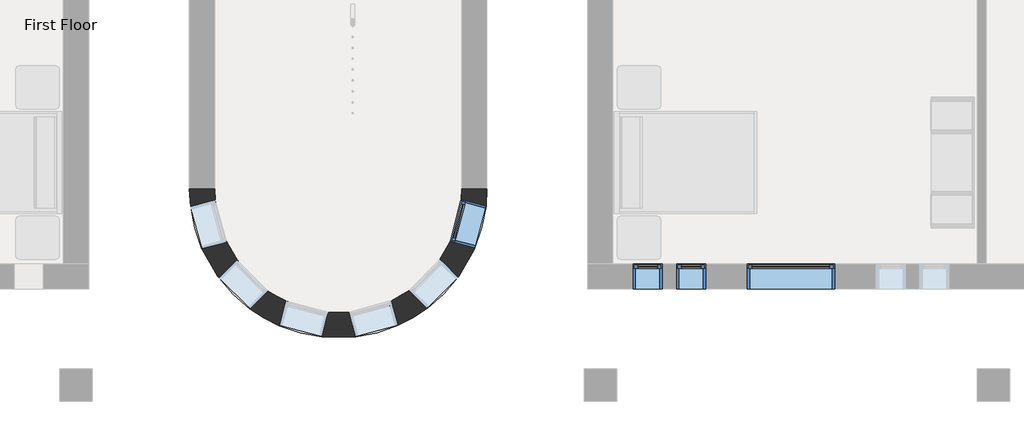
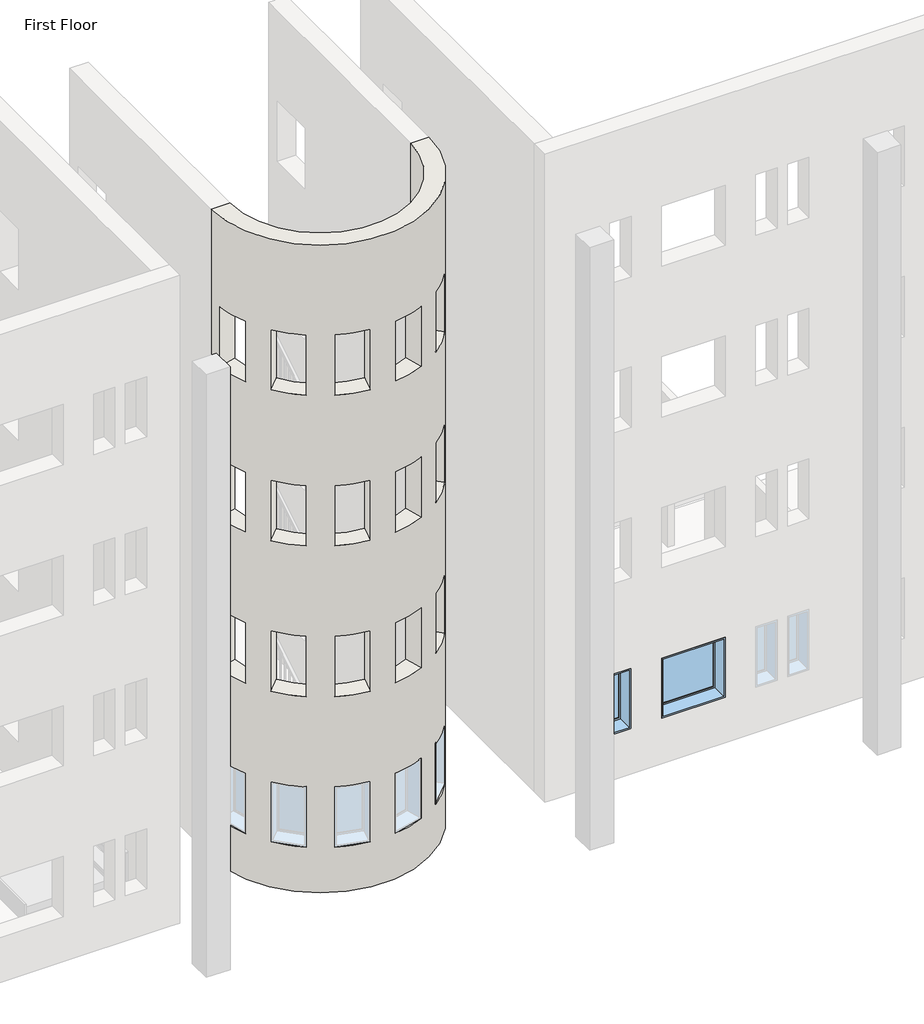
# One storey, part 2 of 21: 4 windows, 1 wall.
"""IFC4 building model written with IfcOpenShell, lengths in millimetres."""

from ifc_helpers import new_model, si_unit, frame, origin, place, context, project, spatial, polyline, circle_curve, transform, mapped, element, save
from ifc_brep_helpers import plane_surface, cylinder_surface, revolved_surface, advanced_brep
from components import window_d61ef850, window_ed80354a, window_d89bf842

model = new_model("IFC4")

# Units and contexts
model_context = context("Model", 3, world=origin())
ifc_project = project(units=[si_unit("LENGTHUNIT", "METRE", prefix="MILLI")], contexts=[model_context])

# Site, building, storey
site = spatial("IfcSite", under=ifc_project)
building = spatial("IfcBuilding", under=site)
storey = spatial("IfcBuildingStorey", under=building, Name="First Floor", Elevation=0.0)

# Wall
placement = place(None, origin())
element("IfcWall", 1, ObjectType="Exterior - Brick on Mtl. Stud", at=placement, inside=storey, context=model_context, shape_type="AdvancedBrep", body=[
    advanced_brep(
    [(-13333.3839563, -32917.9183133, 13106.4), (-16790.9589563, -32917.9183133, 13106.4), (-17143.3839563, -32917.9183133, 13106.4), (-12980.9589563, -32917.9183133, 13106.4), (-16790.9589563, -32917.9183133, 0.0), (-13333.3839563, -32917.9183133, 0.0), (-12980.9589563, -32917.9183133, 0.0), (-17143.3839563, -32917.9183133, 0.0), (-13495.1055834, -33647.9941794, 8229.6), (-13495.1055834, -33647.9941794, 7010.4), (-13339.1246787, -33058.6877079, 7010.4), (-13339.1246787, -33058.6877079, 8229.6), (-14070.090534, -34333.7154965, 8229.6), (-14070.090534, -34333.7154965, 7010.4), (-13640.3538723, -33901.3515739, 7010.4), (-13640.3538723, -33901.3515739, 8229.6), (-14910.9027666, -34640.0751017, 8229.6), (-14910.9027666, -34640.0751017, 7010.4), (-14322.5579393, -34480.5052919, 7010.4), (-14322.5579393, -34480.5052919, 8229.6), (-15792.2473224, -34484.9841862, 8229.6), (-15792.2473224, -34484.9841862, 7010.4), (-15202.9408509, -34640.9650909, 7010.4), (-15202.9408509, -34640.9650909, 8229.6), (-16477.9686395, -33909.9992356, 8229.6), (-16477.9686395, -33909.9992356, 7010.4), (-16045.6047169, -34339.7358973, 7010.4), (-16045.6047169, -34339.7358973, 8229.6), (-16784.3282447, -33069.187003, 8229.6), (-16784.3282447, -33069.187003, 7010.4), (-16624.7584349, -33657.5318303, 7010.4), (-16624.7584349, -33657.5318303, 8229.6), (-13495.1055834, -33647.9941794, 5181.6), (-13495.1055834, -33647.9941794, 3962.4), (-13339.1246787, -33058.6877079, 3962.4), (-13339.1246787, -33058.6877079, 5181.6), (-14070.090534, -34333.7154965, 5181.6), (-14070.090534, -34333.7154965, 3962.4), (-13640.3538723, -33901.3515739, 3962.4), (-13640.3538723, -33901.3515739, 5181.6), (-14910.9027666, -34640.0751017, 5181.6), (-14910.9027666, -34640.0751017, 3962.4), (-14322.5579393, -34480.5052919, 3962.4), (-14322.5579393, -34480.5052919, 5181.6), (-15792.2473224, -34484.9841862, 5181.6), (-15792.2473224, -34484.9841862, 3962.4), (-15202.9408509, -34640.9650909, 3962.4), (-15202.9408509, -34640.9650909, 5181.6), (-16477.9686395, -33909.9992356, 5181.6), (-16477.9686395, -33909.9992356, 3962.4), (-16045.6047169, -34339.7358973, 3962.4), (-16045.6047169, -34339.7358973, 5181.6), (-16784.3282447, -33069.187003, 5181.6), (-16784.3282447, -33069.187003, 3962.4), (-16624.7584349, -33657.5318303, 3962.4), (-16624.7584349, -33657.5318303, 5181.6), (-13495.1055834, -33647.9941794, 11277.6), (-13495.1055834, -33647.9941794, 10058.4), (-13339.1246787, -33058.6877079, 10058.4), (-13339.1246787, -33058.6877079, 11277.6), (-14070.090534, -34333.7154965, 11277.6), (-14070.090534, -34333.7154965, 10058.4), (-13640.3538723, -33901.3515739, 10058.4), (-13640.3538723, -33901.3515739, 11277.6), (-14910.9027666, -34640.0751017, 11277.6), (-14910.9027666, -34640.0751017, 10058.4), (-14322.5579393, -34480.5052919, 10058.4), (-14322.5579393, -34480.5052919, 11277.6), (-15792.2473224, -34484.9841862, 11277.6), (-15792.2473224, -34484.9841862, 10058.4), (-15202.9408509, -34640.9650909, 10058.4), (-15202.9408509, -34640.9650909, 11277.6), (-16477.9686395, -33909.9992356, 11277.6), (-16477.9686395, -33909.9992356, 10058.4), (-16045.6047169, -34339.7358973, 10058.4), (-16045.6047169, -34339.7358973, 11277.6), (-16784.3282447, -33069.187003, 11277.6), (-16784.3282447, -33069.187003, 10058.4), (-16624.7584349, -33657.5318303, 10058.4), (-16624.7584349, -33657.5318303, 11277.6), (-13495.1055834, -33647.9941794, 2133.6), (-13495.1055834, -33647.9941794, 914.4), (-13339.1246787, -33058.6877079, 914.4), (-13339.1246787, -33058.6877079, 2133.6), (-14070.090534, -34333.7154965, 2133.6), (-14070.090534, -34333.7154965, 914.4), (-13640.3538723, -33901.3515739, 914.4), (-13640.3538723, -33901.3515739, 2133.6), (-14910.9027666, -34640.0751017, 2133.6), (-14910.9027666, -34640.0751017, 914.4), (-14322.5579393, -34480.5052919, 914.4), (-14322.5579393, -34480.5052919, 2133.6), (-15792.2473224, -34484.9841862, 2133.6), (-15792.2473224, -34484.9841862, 914.4), (-15202.9408509, -34640.9650909, 914.4), (-15202.9408509, -34640.9650909, 2133.6), (-16477.9686395, -33909.9992356, 2133.6), (-16477.9686395, -33909.9992356, 914.4), (-16045.6047169, -34339.7358973, 914.4), (-16045.6047169, -34339.7358973, 2133.6), (-16784.3282447, -33069.187003, 914.4), (-16624.7584349, -33657.5318303, 914.4), (-16624.7584349, -33657.5318303, 2133.6), (-16784.3282447, -33069.187003, 2133.6), (-13149.9261748, -33739.3581794, 7010.4), (-13149.9261748, -33739.3581794, 8229.6), (-12993.9452701, -33150.0517078, 8229.6), (-12993.9452701, -33150.0517078, 7010.4), (-13816.8383973, -34585.4287457, 7010.4), (-13816.8383973, -34585.4287457, 8229.6), (-13387.1017356, -34153.0648231, 8229.6), (-13387.1017356, -34153.0648231, 7010.4), (-14817.4366072, -34984.6912384, 7010.4), (-14817.4366072, -34984.6912384, 8229.6), (-14229.0917799, -34825.1214286, 8229.6), (-14229.0917799, -34825.1214286, 7010.4), (-15883.6113224, -34830.1635948, 7010.4), (-15883.6113224, -34830.1635948, 8229.6), (-15294.3048508, -34986.1444995, 8229.6), (-15294.3048508, -34986.1444995, 7010.4), (-16729.6818887, -34163.2513723, 7010.4), (-16729.6818887, -34163.2513723, 8229.6), (-16297.3179661, -34592.9880341, 8229.6), (-16297.3179661, -34592.9880341, 7010.4), (-17128.9443814, -33162.6531624, 7010.4), (-17128.9443814, -33162.6531624, 8229.6), (-16969.3745716, -33750.9979897, 8229.6), (-16969.3745716, -33750.9979897, 7010.4), (-13149.9261748, -33739.3581794, 3962.4), (-13149.9261748, -33739.3581794, 5181.6), (-12993.9452701, -33150.0517078, 5181.6), (-12993.9452701, -33150.0517078, 3962.4), (-13816.8383973, -34585.4287457, 3962.4), (-13816.8383973, -34585.4287457, 5181.6), (-13387.1017356, -34153.0648231, 5181.6), (-13387.1017356, -34153.0648231, 3962.4), (-14817.4366072, -34984.6912384, 3962.4), (-14817.4366072, -34984.6912384, 5181.6), (-14229.0917799, -34825.1214286, 5181.6), (-14229.0917799, -34825.1214286, 3962.4), (-15883.6113224, -34830.1635948, 3962.4), (-15883.6113224, -34830.1635948, 5181.6), (-15294.3048508, -34986.1444995, 5181.6), (-15294.3048508, -34986.1444995, 3962.4), (-16729.6818887, -34163.2513723, 3962.4), (-16729.6818887, -34163.2513723, 5181.6), (-16297.3179661, -34592.9880341, 5181.6), (-16297.3179661, -34592.9880341, 3962.4), (-17128.9443814, -33162.6531624, 3962.4), (-17128.9443814, -33162.6531624, 5181.6), (-16969.3745716, -33750.9979897, 5181.6), (-16969.3745716, -33750.9979897, 3962.4), (-13149.9261748, -33739.3581794, 10058.4), (-13149.9261748, -33739.3581794, 11277.6), (-12993.9452701, -33150.0517078, 11277.6), (-12993.9452701, -33150.0517078, 10058.4), (-13816.8383973, -34585.4287457, 10058.4), (-13816.8383973, -34585.4287457, 11277.6), (-13387.1017356, -34153.0648231, 11277.6), (-13387.1017356, -34153.0648231, 10058.4), (-14817.4366072, -34984.6912384, 10058.4), (-14817.4366072, -34984.6912384, 11277.6), (-14229.0917799, -34825.1214286, 11277.6), (-14229.0917799, -34825.1214286, 10058.4), (-15883.6113224, -34830.1635948, 10058.4), (-15883.6113224, -34830.1635948, 11277.6), (-15294.3048508, -34986.1444995, 11277.6), (-15294.3048508, -34986.1444995, 10058.4), (-16729.6818887, -34163.2513723, 10058.4), (-16729.6818887, -34163.2513723, 11277.6), (-16297.3179661, -34592.9880341, 11277.6), (-16297.3179661, -34592.9880341, 10058.4), (-17128.9443814, -33162.6531624, 10058.4), (-17128.9443814, -33162.6531624, 11277.6), (-16969.3745716, -33750.9979897, 11277.6), (-16969.3745716, -33750.9979897, 10058.4), (-13149.9261748, -33739.3581794, 914.4), (-13149.9261748, -33739.3581794, 2133.6), (-12993.9452701, -33150.0517078, 2133.6), (-12993.9452701, -33150.0517078, 914.4), (-13816.8383973, -34585.4287457, 914.4), (-13816.8383973, -34585.4287457, 2133.6), (-13387.1017356, -34153.0648231, 2133.6), (-13387.1017356, -34153.0648231, 914.4), (-14817.4366072, -34984.6912384, 914.4), (-14817.4366072, -34984.6912384, 2133.6), (-14229.0917799, -34825.1214286, 2133.6), (-14229.0917799, -34825.1214286, 914.4), (-15883.6113224, -34830.1635948, 914.4), (-15883.6113224, -34830.1635948, 2133.6), (-15294.3048508, -34986.1444995, 2133.6), (-15294.3048508, -34986.1444995, 914.4), (-16729.6818887, -34163.2513723, 914.4), (-16729.6818887, -34163.2513723, 2133.6), (-16297.3179661, -34592.9880341, 2133.6), (-16297.3179661, -34592.9880341, 914.4), (-16969.3745716, -33750.9979897, 914.4), (-17128.9443814, -33162.6531624, 914.4), (-17128.9443814, -33162.6531624, 2133.6), (-16969.3745716, -33750.9979897, 2133.6)],
    [
        (0, 1, circle_curve(frame((-15062.1714563, -32917.9183133, 13106.4), z_axis=(0.0, 0.0, -1.0), x_axis=(1.0, 0.0, 0.0)), 1728.7875)),
        (1, 2),
        (2, 3, circle_curve(frame((-15062.1714563, -32917.9183133, 13106.4), z_axis=(0.0, 0.0, 1.0), x_axis=(1.0, 0.0, 0.0)), 2081.2125)),
        (3, 0),
        (4, 5, circle_curve(frame((-15062.1714563, -32917.9183133, 0.0), z_axis=(0.0, 0.0, 1.0), x_axis=(1.0, 0.0, 0.0)), 1728.7875)),
        (5, 6),
        (6, 7, circle_curve(frame((-15062.1714563, -32917.9183133, 0.0), z_axis=(0.0, 0.0, -1.0), x_axis=(1.0, 0.0, 0.0)), 2081.2125)),
        (7, 4),
        (0, 5),
        (4, 1),
        (8, 9),
        (9, 10, circle_curve(frame((-15062.1714563, -32917.9183133, 7010.4), z_axis=(0.0, 0.0, 1.0), x_axis=(1.0, 0.0, 0.0)), 1728.7875)),
        (10, 11),
        (11, 8, circle_curve(frame((-15062.1714563, -32917.9183133, 8229.6), z_axis=(0.0, 0.0, -1.0), x_axis=(1.0, 0.0, 0.0)), 1728.7875)),
        (12, 13),
        (13, 14, circle_curve(frame((-15062.1714563, -32917.9183133, 7010.4), z_axis=(0.0, 0.0, 1.0), x_axis=(1.0, 0.0, 0.0)), 1728.7875)),
        (14, 15),
        (15, 12, circle_curve(frame((-15062.1714563, -32917.9183133, 8229.6), z_axis=(0.0, 0.0, -1.0), x_axis=(1.0, 0.0, 0.0)), 1728.7875)),
        (16, 17),
        (17, 18, circle_curve(frame((-15062.1714563, -32917.9183133, 7010.4), z_axis=(0.0, 0.0, 1.0), x_axis=(1.0, 0.0, 0.0)), 1728.7875)),
        (18, 19),
        (19, 16, circle_curve(frame((-15062.1714563, -32917.9183133, 8229.6), z_axis=(0.0, 0.0, -1.0), x_axis=(1.0, 0.0, 0.0)), 1728.7875)),
        (20, 21),
        (21, 22, circle_curve(frame((-15062.1714563, -32917.9183133, 7010.4), z_axis=(0.0, 0.0, 1.0), x_axis=(1.0, 0.0, 0.0)), 1728.7875)),
        (22, 23),
        (23, 20, circle_curve(frame((-15062.1714563, -32917.9183133, 8229.6), z_axis=(0.0, 0.0, -1.0), x_axis=(1.0, 0.0, 0.0)), 1728.7875)),
        (24, 25),
        (25, 26, circle_curve(frame((-15062.1714563, -32917.9183133, 7010.4), z_axis=(0.0, 0.0, 1.0), x_axis=(1.0, 0.0, 0.0)), 1728.7875)),
        (26, 27),
        (27, 24, circle_curve(frame((-15062.1714563, -32917.9183133, 8229.6), z_axis=(0.0, 0.0, -1.0), x_axis=(1.0, 0.0, 0.0)), 1728.7875)),
        (28, 29),
        (29, 30, circle_curve(frame((-15062.1714563, -32917.9183133, 7010.4), z_axis=(0.0, 0.0, 1.0), x_axis=(1.0, 0.0, 0.0)), 1728.7875)),
        (30, 31),
        (31, 28, circle_curve(frame((-15062.1714563, -32917.9183133, 8229.6), z_axis=(0.0, 0.0, -1.0), x_axis=(1.0, 0.0, 0.0)), 1728.7875)),
        (32, 33),
        (33, 34, circle_curve(frame((-15062.1714563, -32917.9183133, 3962.4), z_axis=(0.0, 0.0, 1.0), x_axis=(1.0, 0.0, 0.0)), 1728.7875)),
        (34, 35),
        (35, 32, circle_curve(frame((-15062.1714563, -32917.9183133, 5181.6), z_axis=(0.0, 0.0, -1.0), x_axis=(1.0, 0.0, 0.0)), 1728.7875)),
        (36, 37),
        (37, 38, circle_curve(frame((-15062.1714563, -32917.9183133, 3962.4), z_axis=(0.0, 0.0, 1.0), x_axis=(1.0, 0.0, 0.0)), 1728.7875)),
        (38, 39),
        (39, 36, circle_curve(frame((-15062.1714563, -32917.9183133, 5181.6), z_axis=(0.0, 0.0, -1.0), x_axis=(1.0, 0.0, 0.0)), 1728.7875)),
        (40, 41),
        (41, 42, circle_curve(frame((-15062.1714563, -32917.9183133, 3962.4), z_axis=(0.0, 0.0, 1.0), x_axis=(1.0, 0.0, 0.0)), 1728.7875)),
        (42, 43),
        (43, 40, circle_curve(frame((-15062.1714563, -32917.9183133, 5181.6), z_axis=(0.0, 0.0, -1.0), x_axis=(1.0, 0.0, 0.0)), 1728.7875)),
        (44, 45),
        (45, 46, circle_curve(frame((-15062.1714563, -32917.9183133, 3962.4), z_axis=(0.0, 0.0, 1.0), x_axis=(1.0, 0.0, 0.0)), 1728.7875)),
        (46, 47),
        (47, 44, circle_curve(frame((-15062.1714563, -32917.9183133, 5181.6), z_axis=(0.0, 0.0, -1.0), x_axis=(1.0, 0.0, 0.0)), 1728.7875)),
        (48, 49),
        (49, 50, circle_curve(frame((-15062.1714563, -32917.9183133, 3962.4), z_axis=(0.0, 0.0, 1.0), x_axis=(1.0, 0.0, 0.0)), 1728.7875)),
        (50, 51),
        (51, 48, circle_curve(frame((-15062.1714563, -32917.9183133, 5181.6), z_axis=(0.0, 0.0, -1.0), x_axis=(1.0, 0.0, 0.0)), 1728.7875)),
        (52, 53),
        (53, 54, circle_curve(frame((-15062.1714563, -32917.9183133, 3962.4), z_axis=(0.0, 0.0, 1.0), x_axis=(1.0, 0.0, 0.0)), 1728.7875)),
        (54, 55),
        (55, 52, circle_curve(frame((-15062.1714563, -32917.9183133, 5181.6), z_axis=(0.0, 0.0, -1.0), x_axis=(1.0, 0.0, 0.0)), 1728.7875)),
        (56, 57),
        (57, 58, circle_curve(frame((-15062.1714563, -32917.9183133, 10058.4), z_axis=(0.0, 0.0, 1.0), x_axis=(1.0, 0.0, 0.0)), 1728.7875)),
        (58, 59),
        (59, 56, circle_curve(frame((-15062.1714563, -32917.9183133, 11277.6), z_axis=(0.0, 0.0, -1.0), x_axis=(1.0, 0.0, 0.0)), 1728.7875)),
        (60, 61),
        (61, 62, circle_curve(frame((-15062.1714563, -32917.9183133, 10058.4), z_axis=(0.0, 0.0, 1.0), x_axis=(1.0, 0.0, 0.0)), 1728.7875)),
        (62, 63),
        (63, 60, circle_curve(frame((-15062.1714563, -32917.9183133, 11277.6), z_axis=(0.0, 0.0, -1.0), x_axis=(1.0, 0.0, 0.0)), 1728.7875)),
        (64, 65),
        (65, 66, circle_curve(frame((-15062.1714563, -32917.9183133, 10058.4), z_axis=(0.0, 0.0, 1.0), x_axis=(1.0, 0.0, 0.0)), 1728.7875)),
        (66, 67),
        (67, 64, circle_curve(frame((-15062.1714563, -32917.9183133, 11277.6), z_axis=(0.0, 0.0, -1.0), x_axis=(1.0, 0.0, 0.0)), 1728.7875)),
        (68, 69),
        (69, 70, circle_curve(frame((-15062.1714563, -32917.9183133, 10058.4), z_axis=(0.0, 0.0, 1.0), x_axis=(1.0, 0.0, 0.0)), 1728.7875)),
        (70, 71),
        (71, 68, circle_curve(frame((-15062.1714563, -32917.9183133, 11277.6), z_axis=(0.0, 0.0, -1.0), x_axis=(1.0, 0.0, 0.0)), 1728.7875)),
        (72, 73),
        (73, 74, circle_curve(frame((-15062.1714563, -32917.9183133, 10058.4), z_axis=(0.0, 0.0, 1.0), x_axis=(1.0, 0.0, 0.0)), 1728.7875)),
        (74, 75),
        (75, 72, circle_curve(frame((-15062.1714563, -32917.9183133, 11277.6), z_axis=(0.0, 0.0, -1.0), x_axis=(1.0, 0.0, 0.0)), 1728.7875)),
        (76, 77),
        (77, 78, circle_curve(frame((-15062.1714563, -32917.9183133, 10058.4), z_axis=(0.0, 0.0, 1.0), x_axis=(1.0, 0.0, 0.0)), 1728.7875)),
        (78, 79),
        (79, 76, circle_curve(frame((-15062.1714563, -32917.9183133, 11277.6), z_axis=(0.0, 0.0, -1.0), x_axis=(1.0, 0.0, 0.0)), 1728.7875)),
        (80, 81),
        (81, 82, circle_curve(frame((-15062.1714563, -32917.9183133, 914.4), z_axis=(0.0, 0.0, 1.0), x_axis=(1.0, 0.0, 0.0)), 1728.7875)),
        (82, 83),
        (83, 80, circle_curve(frame((-15062.1714563, -32917.9183133, 2133.6), z_axis=(0.0, 0.0, -1.0), x_axis=(1.0, 0.0, 0.0)), 1728.7875)),
        (84, 85),
        (85, 86, circle_curve(frame((-15062.1714563, -32917.9183133, 914.4), z_axis=(0.0, 0.0, 1.0), x_axis=(1.0, 0.0, 0.0)), 1728.7875)),
        (86, 87),
        (87, 84, circle_curve(frame((-15062.1714563, -32917.9183133, 2133.6), z_axis=(0.0, 0.0, -1.0), x_axis=(1.0, 0.0, 0.0)), 1728.7875)),
        (88, 89),
        (89, 90, circle_curve(frame((-15062.1714563, -32917.9183133, 914.4), z_axis=(0.0, 0.0, 1.0), x_axis=(1.0, 0.0, 0.0)), 1728.7875)),
        (90, 91),
        (91, 88, circle_curve(frame((-15062.1714563, -32917.9183133, 2133.6), z_axis=(0.0, 0.0, -1.0), x_axis=(1.0, 0.0, 0.0)), 1728.7875)),
        (92, 93),
        (93, 94, circle_curve(frame((-15062.1714563, -32917.9183133, 914.4), z_axis=(0.0, 0.0, 1.0), x_axis=(1.0, 0.0, 0.0)), 1728.7875)),
        (94, 95),
        (95, 92, circle_curve(frame((-15062.1714563, -32917.9183133, 2133.6), z_axis=(0.0, 0.0, -1.0), x_axis=(1.0, 0.0, 0.0)), 1728.7875)),
        (96, 97),
        (97, 98, circle_curve(frame((-15062.1714563, -32917.9183133, 914.4), z_axis=(0.0, 0.0, 1.0), x_axis=(1.0, 0.0, 0.0)), 1728.7875)),
        (98, 99),
        (99, 96, circle_curve(frame((-15062.1714563, -32917.9183133, 2133.6), z_axis=(0.0, 0.0, -1.0), x_axis=(1.0, 0.0, 0.0)), 1728.7875)),
        (100, 101, circle_curve(frame((-15062.1714563, -32917.9183133, 914.4), z_axis=(0.0, 0.0, 1.0), x_axis=(1.0, 0.0, 0.0)), 1728.7875)),
        (101, 102),
        (102, 103, circle_curve(frame((-15062.1714563, -32917.9183133, 2133.6), z_axis=(0.0, 0.0, -1.0), x_axis=(1.0, 0.0, 0.0)), 1728.7875)),
        (103, 100),
        (7, 2),
        (6, 3),
        (104, 105),
        (105, 106, circle_curve(frame((-15062.1714563, -32917.9183133, 8229.6), z_axis=(0.0, 0.0, 1.0), x_axis=(1.0, 0.0, 0.0)), 2081.2125)),
        (106, 107),
        (107, 104, circle_curve(frame((-15062.1714563, -32917.9183133, 7010.4), z_axis=(0.0, 0.0, -1.0), x_axis=(1.0, 0.0, 0.0)), 2081.2125)),
        (108, 109),
        (109, 110, circle_curve(frame((-15062.1714563, -32917.9183133, 8229.6), z_axis=(0.0, 0.0, 1.0), x_axis=(1.0, 0.0, 0.0)), 2081.2125)),
        (110, 111),
        (111, 108, circle_curve(frame((-15062.1714563, -32917.9183133, 7010.4), z_axis=(0.0, 0.0, -1.0), x_axis=(1.0, 0.0, 0.0)), 2081.2125)),
        (112, 113),
        (113, 114, circle_curve(frame((-15062.1714563, -32917.9183133, 8229.6), z_axis=(0.0, 0.0, 1.0), x_axis=(1.0, 0.0, 0.0)), 2081.2125)),
        (114, 115),
        (115, 112, circle_curve(frame((-15062.1714563, -32917.9183133, 7010.4), z_axis=(0.0, 0.0, -1.0), x_axis=(1.0, 0.0, 0.0)), 2081.2125)),
        (116, 117),
        (117, 118, circle_curve(frame((-15062.1714563, -32917.9183133, 8229.6), z_axis=(0.0, 0.0, 1.0), x_axis=(1.0, 0.0, 0.0)), 2081.2125)),
        (118, 119),
        (119, 116, circle_curve(frame((-15062.1714563, -32917.9183133, 7010.4), z_axis=(0.0, 0.0, -1.0), x_axis=(1.0, 0.0, 0.0)), 2081.2125)),
        (120, 121),
        (121, 122, circle_curve(frame((-15062.1714563, -32917.9183133, 8229.6), z_axis=(0.0, 0.0, 1.0), x_axis=(1.0, 0.0, 0.0)), 2081.2125)),
        (122, 123),
        (123, 120, circle_curve(frame((-15062.1714563, -32917.9183133, 7010.4), z_axis=(0.0, 0.0, -1.0), x_axis=(1.0, 0.0, 0.0)), 2081.2125)),
        (124, 125),
        (125, 126, circle_curve(frame((-15062.1714563, -32917.9183133, 8229.6), z_axis=(0.0, 0.0, 1.0), x_axis=(1.0, 0.0, 0.0)), 2081.2125)),
        (126, 127),
        (127, 124, circle_curve(frame((-15062.1714563, -32917.9183133, 7010.4), z_axis=(0.0, 0.0, -1.0), x_axis=(1.0, 0.0, 0.0)), 2081.2125)),
        (128, 129),
        (129, 130, circle_curve(frame((-15062.1714563, -32917.9183133, 5181.6), z_axis=(0.0, 0.0, 1.0), x_axis=(1.0, 0.0, 0.0)), 2081.2125)),
        (130, 131),
        (131, 128, circle_curve(frame((-15062.1714563, -32917.9183133, 3962.4), z_axis=(0.0, 0.0, -1.0), x_axis=(1.0, 0.0, 0.0)), 2081.2125)),
        (132, 133),
        (133, 134, circle_curve(frame((-15062.1714563, -32917.9183133, 5181.6), z_axis=(0.0, 0.0, 1.0), x_axis=(1.0, 0.0, 0.0)), 2081.2125)),
        (134, 135),
        (135, 132, circle_curve(frame((-15062.1714563, -32917.9183133, 3962.4), z_axis=(0.0, 0.0, -1.0), x_axis=(1.0, 0.0, 0.0)), 2081.2125)),
        (136, 137),
        (137, 138, circle_curve(frame((-15062.1714563, -32917.9183133, 5181.6), z_axis=(0.0, 0.0, 1.0), x_axis=(1.0, 0.0, 0.0)), 2081.2125)),
        (138, 139),
        (139, 136, circle_curve(frame((-15062.1714563, -32917.9183133, 3962.4), z_axis=(0.0, 0.0, -1.0), x_axis=(1.0, 0.0, 0.0)), 2081.2125)),
        (140, 141),
        (141, 142, circle_curve(frame((-15062.1714563, -32917.9183133, 5181.6), z_axis=(0.0, 0.0, 1.0), x_axis=(1.0, 0.0, 0.0)), 2081.2125)),
        (142, 143),
        (143, 140, circle_curve(frame((-15062.1714563, -32917.9183133, 3962.4), z_axis=(0.0, 0.0, -1.0), x_axis=(1.0, 0.0, 0.0)), 2081.2125)),
        (144, 145),
        (145, 146, circle_curve(frame((-15062.1714563, -32917.9183133, 5181.6), z_axis=(0.0, 0.0, 1.0), x_axis=(1.0, 0.0, 0.0)), 2081.2125)),
        (146, 147),
        (147, 144, circle_curve(frame((-15062.1714563, -32917.9183133, 3962.4), z_axis=(0.0, 0.0, -1.0), x_axis=(1.0, 0.0, 0.0)), 2081.2125)),
        (148, 149),
        (149, 150, circle_curve(frame((-15062.1714563, -32917.9183133, 5181.6), z_axis=(0.0, 0.0, 1.0), x_axis=(1.0, 0.0, 0.0)), 2081.2125)),
        (150, 151),
        (151, 148, circle_curve(frame((-15062.1714563, -32917.9183133, 3962.4), z_axis=(0.0, 0.0, -1.0), x_axis=(1.0, 0.0, 0.0)), 2081.2125)),
        (152, 153),
        (153, 154, circle_curve(frame((-15062.1714563, -32917.9183133, 11277.6), z_axis=(0.0, 0.0, 1.0), x_axis=(1.0, 0.0, 0.0)), 2081.2125)),
        (154, 155),
        (155, 152, circle_curve(frame((-15062.1714563, -32917.9183133, 10058.4), z_axis=(0.0, 0.0, -1.0), x_axis=(1.0, 0.0, 0.0)), 2081.2125)),
        (156, 157),
        (157, 158, circle_curve(frame((-15062.1714563, -32917.9183133, 11277.6), z_axis=(0.0, 0.0, 1.0), x_axis=(1.0, 0.0, 0.0)), 2081.2125)),
        (158, 159),
        (159, 156, circle_curve(frame((-15062.1714563, -32917.9183133, 10058.4), z_axis=(0.0, 0.0, -1.0), x_axis=(1.0, 0.0, 0.0)), 2081.2125)),
        (160, 161),
        (161, 162, circle_curve(frame((-15062.1714563, -32917.9183133, 11277.6), z_axis=(0.0, 0.0, 1.0), x_axis=(1.0, 0.0, 0.0)), 2081.2125)),
        (162, 163),
        (163, 160, circle_curve(frame((-15062.1714563, -32917.9183133, 10058.4), z_axis=(0.0, 0.0, -1.0), x_axis=(1.0, 0.0, 0.0)), 2081.2125)),
        (164, 165),
        (165, 166, circle_curve(frame((-15062.1714563, -32917.9183133, 11277.6), z_axis=(0.0, 0.0, 1.0), x_axis=(1.0, 0.0, 0.0)), 2081.2125)),
        (166, 167),
        (167, 164, circle_curve(frame((-15062.1714563, -32917.9183133, 10058.4), z_axis=(0.0, 0.0, -1.0), x_axis=(1.0, 0.0, 0.0)), 2081.2125)),
        (168, 169),
        (169, 170, circle_curve(frame((-15062.1714563, -32917.9183133, 11277.6), z_axis=(0.0, 0.0, 1.0), x_axis=(1.0, 0.0, 0.0)), 2081.2125)),
        (170, 171),
        (171, 168, circle_curve(frame((-15062.1714563, -32917.9183133, 10058.4), z_axis=(0.0, 0.0, -1.0), x_axis=(1.0, 0.0, 0.0)), 2081.2125)),
        (172, 173),
        (173, 174, circle_curve(frame((-15062.1714563, -32917.9183133, 11277.6), z_axis=(0.0, 0.0, 1.0), x_axis=(1.0, 0.0, 0.0)), 2081.2125)),
        (174, 175),
        (175, 172, circle_curve(frame((-15062.1714563, -32917.9183133, 10058.4), z_axis=(0.0, 0.0, -1.0), x_axis=(1.0, 0.0, 0.0)), 2081.2125)),
        (176, 177),
        (177, 178, circle_curve(frame((-15062.1714563, -32917.9183133, 2133.6), z_axis=(0.0, 0.0, 1.0), x_axis=(1.0, 0.0, 0.0)), 2081.2125)),
        (178, 179),
        (179, 176, circle_curve(frame((-15062.1714563, -32917.9183133, 914.4), z_axis=(0.0, 0.0, -1.0), x_axis=(1.0, 0.0, 0.0)), 2081.2125)),
        (180, 181),
        (181, 182, circle_curve(frame((-15062.1714563, -32917.9183133, 2133.6), z_axis=(0.0, 0.0, 1.0), x_axis=(1.0, 0.0, 0.0)), 2081.2125)),
        (182, 183),
        (183, 180, circle_curve(frame((-15062.1714563, -32917.9183133, 914.4), z_axis=(0.0, 0.0, -1.0), x_axis=(1.0, 0.0, 0.0)), 2081.2125)),
        (184, 185),
        (185, 186, circle_curve(frame((-15062.1714563, -32917.9183133, 2133.6), z_axis=(0.0, 0.0, 1.0), x_axis=(1.0, 0.0, 0.0)), 2081.2125)),
        (186, 187),
        (187, 184, circle_curve(frame((-15062.1714563, -32917.9183133, 914.4), z_axis=(0.0, 0.0, -1.0), x_axis=(1.0, 0.0, 0.0)), 2081.2125)),
        (188, 189),
        (189, 190, circle_curve(frame((-15062.1714563, -32917.9183133, 2133.6), z_axis=(0.0, 0.0, 1.0), x_axis=(1.0, 0.0, 0.0)), 2081.2125)),
        (190, 191),
        (191, 188, circle_curve(frame((-15062.1714563, -32917.9183133, 914.4), z_axis=(0.0, 0.0, -1.0), x_axis=(1.0, 0.0, 0.0)), 2081.2125)),
        (192, 193),
        (193, 194, circle_curve(frame((-15062.1714563, -32917.9183133, 2133.6), z_axis=(0.0, 0.0, 1.0), x_axis=(1.0, 0.0, 0.0)), 2081.2125)),
        (194, 195),
        (195, 192, circle_curve(frame((-15062.1714563, -32917.9183133, 914.4), z_axis=(0.0, 0.0, -1.0), x_axis=(1.0, 0.0, 0.0)), 2081.2125)),
        (196, 197, circle_curve(frame((-15062.1714563, -32917.9183133, 914.4), z_axis=(0.0, 0.0, -1.0), x_axis=(1.0, 0.0, 0.0)), 2081.2125)),
        (197, 198),
        (198, 199, circle_curve(frame((-15062.1714563, -32917.9183133, 2133.6), z_axis=(0.0, 0.0, 1.0), x_axis=(1.0, 0.0, 0.0)), 2081.2125)),
        (199, 196),
        (8, 105),
        (104, 9),
        (107, 10),
        (106, 11),
        (12, 109),
        (108, 13),
        (111, 14),
        (110, 15),
        (16, 113),
        (112, 17),
        (115, 18),
        (114, 19),
        (20, 117),
        (116, 21),
        (119, 22),
        (118, 23),
        (24, 121),
        (120, 25),
        (123, 26),
        (122, 27),
        (28, 125),
        (124, 29),
        (127, 30),
        (126, 31),
        (32, 129),
        (128, 33),
        (131, 34),
        (130, 35),
        (36, 133),
        (132, 37),
        (135, 38),
        (134, 39),
        (40, 137),
        (136, 41),
        (139, 42),
        (138, 43),
        (44, 141),
        (140, 45),
        (143, 46),
        (142, 47),
        (48, 145),
        (144, 49),
        (147, 50),
        (146, 51),
        (52, 149),
        (148, 53),
        (151, 54),
        (150, 55),
        (56, 153),
        (152, 57),
        (155, 58),
        (154, 59),
        (60, 157),
        (156, 61),
        (159, 62),
        (158, 63),
        (64, 161),
        (160, 65),
        (163, 66),
        (162, 67),
        (68, 165),
        (164, 69),
        (167, 70),
        (166, 71),
        (72, 169),
        (168, 73),
        (171, 74),
        (170, 75),
        (76, 173),
        (172, 77),
        (175, 78),
        (174, 79),
        (80, 177),
        (176, 81),
        (179, 82),
        (178, 83),
        (84, 181),
        (180, 85),
        (183, 86),
        (182, 87),
        (88, 185),
        (184, 89),
        (187, 90),
        (186, 91),
        (92, 189),
        (188, 93),
        (191, 94),
        (190, 95),
        (96, 193),
        (192, 97),
        (195, 98),
        (194, 99),
        (197, 100),
        (103, 198),
        (196, 101),
        (199, 102),
    ],
    [
        plane_surface(frame((-13333.3839563, -32917.9183133, 13106.4), z_axis=(0.0, 0.0, 1.0), x_axis=(0.0, -1.0, 0.0))),
        plane_surface(frame((-13333.3839563, -32917.9183133, 0.0), z_axis=(0.0, 0.0, -1.0), x_axis=(0.0, 1.0, 0.0))),
        revolved_surface(polyline([(-13333.3839563, -32917.9183133, 0.0), (-13333.3839563, -32917.9183133, 13106.4)]), (-15062.1714563, -32917.9183133, 0.0), (0.0, 0.0, -1.0)),
        plane_surface(frame((-16790.9589563, -32917.9183133, 13106.4), z_axis=(0.0, 1.0, 0.0), x_axis=(0.0, 0.0, -1.0))),
        cylinder_surface(frame((-15062.1714563, -32917.9183133, 0.0), z_axis=(0.0, 0.0, 1.0), x_axis=(1.0, 0.0, 0.0)), 2081.2125),
        plane_surface(frame((-12980.9589563, -32917.9183133, 13106.4), z_axis=(0.0, 1.0, 0.0), x_axis=(0.0, 0.0, -1.0))),
        plane_surface(frame((-13495.1055834, -33647.9941794, 8229.6), z_axis=(0.2558741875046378, 0.9667100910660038, 0.0), x_axis=(0.9667100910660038, -0.2558741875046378, 0.0))),
        plane_surface(frame((-13495.1055834, -33647.9941794, 7010.4), z_axis=(0.0, 0.0, 1.0), x_axis=(0.9667100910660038, -0.2558741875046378, 0.0))),
        plane_surface(frame((-13339.1246787, -33058.6877079, 7010.4), z_axis=(-0.2558741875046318, -0.9667100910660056, 0.0), x_axis=(0.9667100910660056, -0.2558741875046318, 0.0))),
        plane_surface(frame((-13339.1246787, -33058.6877079, 8229.6), z_axis=(0.0, 0.0, -1.0000000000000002), x_axis=(0.9667100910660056, -0.2558741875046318, 0.0))),
        plane_surface(frame((-14070.090534, -34333.7154965, 8229.6), z_axis=(0.7049485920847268, 0.7092584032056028, 0.0), x_axis=(0.7092584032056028, -0.7049485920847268, 0.0))),
        plane_surface(frame((-14070.090534, -34333.7154965, 7010.4), z_axis=(0.0, 0.0, 1.0), x_axis=(0.7092584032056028, -0.7049485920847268, 0.0))),
        plane_surface(frame((-13640.3538723, -33901.3515739, 7010.4), z_axis=(-0.7049485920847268, -0.709258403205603, 0.0), x_axis=(0.709258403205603, -0.7049485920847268, 0.0))),
        plane_surface(frame((-13640.3538723, -33901.3515739, 8229.6), z_axis=(0.0, 0.0, -1.0000000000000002), x_axis=(0.709258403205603, -0.7049485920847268, 0.0))),
        plane_surface(frame((-14910.9027666, -34640.0751017, 8229.6), z_axis=(0.9651325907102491, 0.2617614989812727, 0.0), x_axis=(0.2617614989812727, -0.9651325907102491, 0.0))),
        plane_surface(frame((-14910.9027666, -34640.0751017, 7010.4), z_axis=(0.0, 0.0, 1.0000000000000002), x_axis=(0.2617614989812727, -0.9651325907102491, 0.0))),
        plane_surface(frame((-14322.5579393, -34480.5052919, 7010.4), z_axis=(-0.9651325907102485, -0.26176149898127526, 0.0), x_axis=(0.26176149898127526, -0.9651325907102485, 0.0))),
        plane_surface(frame((-14322.5579393, -34480.5052919, 8229.6), z_axis=(0.0, 0.0, -1.0000000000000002), x_axis=(0.26176149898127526, -0.9651325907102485, 0.0))),
        plane_surface(frame((-15792.2473224, -34484.9841862, 8229.6), z_axis=(0.9667100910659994, -0.2558741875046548, 0.0), x_axis=(-0.2558741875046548, -0.9667100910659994, 0.0))),
        plane_surface(frame((-15792.2473224, -34484.9841862, 7010.4), z_axis=(0.0, 0.0, 1.0), x_axis=(-0.2558741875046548, -0.9667100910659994, 0.0))),
        plane_surface(frame((-15202.9408509, -34640.9650909, 7010.4), z_axis=(-0.9667100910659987, 0.25587418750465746, 0.0), x_axis=(-0.25587418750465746, -0.9667100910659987, 0.0))),
        plane_surface(frame((-15202.9408509, -34640.9650909, 8229.6), z_axis=(0.0, 0.0, -1.0000000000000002), x_axis=(-0.25587418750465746, -0.9667100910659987, 0.0))),
        plane_surface(frame((-16477.9686395, -33909.9992356, 8229.6), z_axis=(0.7092584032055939, -0.7049485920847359, 0.0), x_axis=(-0.7049485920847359, -0.7092584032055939, 0.0))),
        plane_surface(frame((-16477.9686395, -33909.9992356, 7010.4), z_axis=(0.0, 0.0, 1.0000000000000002), x_axis=(-0.7049485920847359, -0.7092584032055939, 0.0))),
        plane_surface(frame((-16045.6047169, -34339.7358973, 7010.4), z_axis=(-0.7092584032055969, 0.7049485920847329, 0.0), x_axis=(-0.7049485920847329, -0.7092584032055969, 0.0))),
        plane_surface(frame((-16045.6047169, -34339.7358973, 8229.6), z_axis=(0.0, 0.0, -1.0000000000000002), x_axis=(-0.7049485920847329, -0.7092584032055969, 0.0))),
        plane_surface(frame((-16784.3282447, -33069.187003, 8229.6), z_axis=(0.26176149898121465, -0.9651325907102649, 0.0), x_axis=(-0.9651325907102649, -0.26176149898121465, 0.0))),
        plane_surface(frame((-16784.3282447, -33069.187003, 7010.4), z_axis=(0.0, 0.0, 1.0), x_axis=(-0.9651325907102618, -0.26176149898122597, 0.0))),
        plane_surface(frame((-16624.7584349, -33657.5318303, 7010.4), z_axis=(-0.2617614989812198, 0.9651325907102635, 0.0), x_axis=(-0.9651325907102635, -0.2617614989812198, 0.0))),
        plane_surface(frame((-16624.7584349, -33657.5318303, 8229.6), z_axis=(0.0, 0.0, -1.0), x_axis=(-0.9651325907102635, -0.2617614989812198, 0.0))),
        plane_surface(frame((-13495.1055834, -33647.9941794, 5181.6), z_axis=(0.2558741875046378, 0.9667100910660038, 0.0), x_axis=(0.9667100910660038, -0.2558741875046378, 0.0))),
        plane_surface(frame((-13495.1055834, -33647.9941794, 3962.4), z_axis=(0.0, 0.0, 1.0), x_axis=(0.9667100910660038, -0.2558741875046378, 0.0))),
        plane_surface(frame((-13339.1246787, -33058.6877079, 3962.4), z_axis=(-0.2558741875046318, -0.9667100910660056, 0.0), x_axis=(0.9667100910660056, -0.2558741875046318, 0.0))),
        plane_surface(frame((-13339.1246787, -33058.6877079, 5181.6), z_axis=(0.0, 0.0, -1.0000000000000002), x_axis=(0.9667100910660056, -0.2558741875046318, 0.0))),
        plane_surface(frame((-14070.090534, -34333.7154965, 5181.6), z_axis=(0.7049485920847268, 0.7092584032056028, 0.0), x_axis=(0.7092584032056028, -0.7049485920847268, 0.0))),
        plane_surface(frame((-14070.090534, -34333.7154965, 3962.4), z_axis=(0.0, 0.0, 1.0), x_axis=(0.7092584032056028, -0.7049485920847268, 0.0))),
        plane_surface(frame((-13640.3538723, -33901.3515739, 3962.4), z_axis=(-0.7049485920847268, -0.709258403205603, 0.0), x_axis=(0.709258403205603, -0.7049485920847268, 0.0))),
        plane_surface(frame((-13640.3538723, -33901.3515739, 5181.6), z_axis=(0.0, 0.0, -1.0000000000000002), x_axis=(0.709258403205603, -0.7049485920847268, 0.0))),
        plane_surface(frame((-14910.9027666, -34640.0751017, 5181.6), z_axis=(0.9651325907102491, 0.2617614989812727, 0.0), x_axis=(0.2617614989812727, -0.9651325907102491, 0.0))),
        plane_surface(frame((-14910.9027666, -34640.0751017, 3962.4), z_axis=(0.0, 0.0, 1.0000000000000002), x_axis=(0.2617614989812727, -0.9651325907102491, 0.0))),
        plane_surface(frame((-14322.5579393, -34480.5052919, 3962.4), z_axis=(-0.9651325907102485, -0.26176149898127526, 0.0), x_axis=(0.26176149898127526, -0.9651325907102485, 0.0))),
        plane_surface(frame((-14322.5579393, -34480.5052919, 5181.6), z_axis=(0.0, 0.0, -1.0000000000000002), x_axis=(0.26176149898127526, -0.9651325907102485, 0.0))),
        plane_surface(frame((-15792.2473224, -34484.9841862, 5181.6), z_axis=(0.9667100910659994, -0.2558741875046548, 0.0), x_axis=(-0.2558741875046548, -0.9667100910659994, 0.0))),
        plane_surface(frame((-15792.2473224, -34484.9841862, 3962.4), z_axis=(0.0, 0.0, 1.0), x_axis=(-0.2558741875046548, -0.9667100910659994, 0.0))),
        plane_surface(frame((-15202.9408509, -34640.9650909, 3962.4), z_axis=(-0.9667100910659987, 0.25587418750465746, 0.0), x_axis=(-0.25587418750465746, -0.9667100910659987, 0.0))),
        plane_surface(frame((-15202.9408509, -34640.9650909, 5181.6), z_axis=(0.0, 0.0, -1.0000000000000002), x_axis=(-0.25587418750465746, -0.9667100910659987, 0.0))),
        plane_surface(frame((-16477.9686395, -33909.9992356, 5181.6), z_axis=(0.7092584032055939, -0.7049485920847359, 0.0), x_axis=(-0.7049485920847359, -0.7092584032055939, 0.0))),
        plane_surface(frame((-16477.9686395, -33909.9992356, 3962.4), z_axis=(0.0, 0.0, 1.0000000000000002), x_axis=(-0.7049485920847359, -0.7092584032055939, 0.0))),
        plane_surface(frame((-16045.6047169, -34339.7358973, 3962.4), z_axis=(-0.7092584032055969, 0.7049485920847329, 0.0), x_axis=(-0.7049485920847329, -0.7092584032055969, 0.0))),
        plane_surface(frame((-16045.6047169, -34339.7358973, 5181.6), z_axis=(0.0, 0.0, -1.0000000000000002), x_axis=(-0.7049485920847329, -0.7092584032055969, 0.0))),
        plane_surface(frame((-16784.3282447, -33069.187003, 5181.6), z_axis=(0.26176149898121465, -0.9651325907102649, 0.0), x_axis=(-0.9651325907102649, -0.26176149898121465, 0.0))),
        plane_surface(frame((-16784.3282447, -33069.187003, 3962.4), z_axis=(0.0, 0.0, 1.0), x_axis=(-0.9651325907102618, -0.26176149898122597, 0.0))),
        plane_surface(frame((-16624.7584349, -33657.5318303, 3962.4), z_axis=(-0.2617614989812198, 0.9651325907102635, 0.0), x_axis=(-0.9651325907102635, -0.2617614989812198, 0.0))),
        plane_surface(frame((-16624.7584349, -33657.5318303, 5181.6), z_axis=(0.0, 0.0, -1.0), x_axis=(-0.9651325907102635, -0.2617614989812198, 0.0))),
        plane_surface(frame((-13495.1055834, -33647.9941794, 11277.6), z_axis=(0.2558741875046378, 0.9667100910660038, 0.0), x_axis=(0.9667100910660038, -0.2558741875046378, 0.0))),
        plane_surface(frame((-13495.1055834, -33647.9941794, 10058.4), z_axis=(0.0, 0.0, 1.0), x_axis=(0.9667100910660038, -0.2558741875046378, 0.0))),
        plane_surface(frame((-13339.1246787, -33058.6877079, 10058.4), z_axis=(-0.2558741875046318, -0.9667100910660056, 0.0), x_axis=(0.9667100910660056, -0.2558741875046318, 0.0))),
        plane_surface(frame((-13339.1246787, -33058.6877079, 11277.6), z_axis=(0.0, 0.0, -1.0000000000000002), x_axis=(0.9667100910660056, -0.2558741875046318, 0.0))),
        plane_surface(frame((-14070.090534, -34333.7154965, 11277.6), z_axis=(0.7049485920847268, 0.7092584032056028, 0.0), x_axis=(0.7092584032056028, -0.7049485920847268, 0.0))),
        plane_surface(frame((-14070.090534, -34333.7154965, 10058.4), z_axis=(0.0, 0.0, 1.0), x_axis=(0.7092584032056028, -0.7049485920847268, 0.0))),
        plane_surface(frame((-13640.3538723, -33901.3515739, 10058.4), z_axis=(-0.7049485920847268, -0.709258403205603, 0.0), x_axis=(0.709258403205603, -0.7049485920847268, 0.0))),
        plane_surface(frame((-13640.3538723, -33901.3515739, 11277.6), z_axis=(0.0, 0.0, -1.0000000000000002), x_axis=(0.709258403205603, -0.7049485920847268, 0.0))),
        plane_surface(frame((-14910.9027666, -34640.0751017, 11277.6), z_axis=(0.9651325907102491, 0.2617614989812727, 0.0), x_axis=(0.2617614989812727, -0.9651325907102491, 0.0))),
        plane_surface(frame((-14910.9027666, -34640.0751017, 10058.4), z_axis=(0.0, 0.0, 1.0000000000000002), x_axis=(0.2617614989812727, -0.9651325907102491, 0.0))),
        plane_surface(frame((-14322.5579393, -34480.5052919, 10058.4), z_axis=(-0.9651325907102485, -0.26176149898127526, 0.0), x_axis=(0.26176149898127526, -0.9651325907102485, 0.0))),
        plane_surface(frame((-14322.5579393, -34480.5052919, 11277.6), z_axis=(0.0, 0.0, -1.0000000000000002), x_axis=(0.26176149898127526, -0.9651325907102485, 0.0))),
        plane_surface(frame((-15792.2473224, -34484.9841862, 11277.6), z_axis=(0.9667100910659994, -0.2558741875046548, 0.0), x_axis=(-0.2558741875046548, -0.9667100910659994, 0.0))),
        plane_surface(frame((-15792.2473224, -34484.9841862, 10058.4), z_axis=(0.0, 0.0, 1.0), x_axis=(-0.2558741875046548, -0.9667100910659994, 0.0))),
        plane_surface(frame((-15202.9408509, -34640.9650909, 10058.4), z_axis=(-0.9667100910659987, 0.25587418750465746, 0.0), x_axis=(-0.25587418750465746, -0.9667100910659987, 0.0))),
        plane_surface(frame((-15202.9408509, -34640.9650909, 11277.6), z_axis=(0.0, 0.0, -1.0000000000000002), x_axis=(-0.25587418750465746, -0.9667100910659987, 0.0))),
        plane_surface(frame((-16477.9686395, -33909.9992356, 11277.6), z_axis=(0.7092584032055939, -0.7049485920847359, 0.0), x_axis=(-0.7049485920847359, -0.7092584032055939, 0.0))),
        plane_surface(frame((-16477.9686395, -33909.9992356, 10058.4), z_axis=(0.0, 0.0, 1.0000000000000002), x_axis=(-0.7049485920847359, -0.7092584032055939, 0.0))),
        plane_surface(frame((-16045.6047169, -34339.7358973, 10058.4), z_axis=(-0.7092584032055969, 0.7049485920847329, 0.0), x_axis=(-0.7049485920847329, -0.7092584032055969, 0.0))),
        plane_surface(frame((-16045.6047169, -34339.7358973, 11277.6), z_axis=(0.0, 0.0, -1.0000000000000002), x_axis=(-0.7049485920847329, -0.7092584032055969, 0.0))),
        plane_surface(frame((-16784.3282447, -33069.187003, 11277.6), z_axis=(0.26176149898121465, -0.9651325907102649, 0.0), x_axis=(-0.9651325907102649, -0.26176149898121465, 0.0))),
        plane_surface(frame((-16784.3282447, -33069.187003, 10058.4), z_axis=(0.0, 0.0, 1.0), x_axis=(-0.9651325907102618, -0.26176149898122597, 0.0))),
        plane_surface(frame((-16624.7584349, -33657.5318303, 10058.4), z_axis=(-0.2617614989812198, 0.9651325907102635, 0.0), x_axis=(-0.9651325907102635, -0.2617614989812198, 0.0))),
        plane_surface(frame((-16624.7584349, -33657.5318303, 11277.6), z_axis=(0.0, 0.0, -1.0), x_axis=(-0.9651325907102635, -0.2617614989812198, 0.0))),
        plane_surface(frame((-13495.1055834, -33647.9941794, 2133.6), z_axis=(0.2558741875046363, 0.9667100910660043, 0.0), x_axis=(0.9667100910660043, -0.2558741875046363, 0.0))),
        plane_surface(frame((-13495.1055834, -33647.9941794, 914.4), z_axis=(0.0, 0.0, 1.0), x_axis=(0.9667100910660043, -0.2558741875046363, 0.0))),
        plane_surface(frame((-13339.1246787, -33058.6877079, 914.4), z_axis=(-0.2558741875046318, -0.9667100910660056, 0.0), x_axis=(0.9667100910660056, -0.2558741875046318, 0.0))),
        plane_surface(frame((-13339.1246787, -33058.6877079, 2133.6), z_axis=(0.0, 0.0, -1.0000000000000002), x_axis=(0.9667100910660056, -0.2558741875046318, 0.0))),
        plane_surface(frame((-14070.090534, -34333.7154965, 2133.6), z_axis=(0.7049485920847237, 0.7092584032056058, 0.0), x_axis=(0.7092584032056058, -0.7049485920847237, 0.0))),
        plane_surface(frame((-14070.090534, -34333.7154965, 914.4), z_axis=(0.0, 0.0, 1.0), x_axis=(0.7092584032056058, -0.7049485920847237, 0.0))),
        plane_surface(frame((-13640.3538723, -33901.3515739, 914.4), z_axis=(-0.7049485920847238, -0.7092584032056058, 0.0), x_axis=(0.7092584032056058, -0.7049485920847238, 0.0))),
        plane_surface(frame((-13640.3538723, -33901.3515739, 2133.6), z_axis=(0.0, 0.0, -1.0), x_axis=(0.7092584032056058, -0.7049485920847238, 0.0))),
        plane_surface(frame((-14910.9027666, -34640.0751017, 2133.6), z_axis=(0.9651325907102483, 0.2617614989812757, 0.0), x_axis=(0.2617614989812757, -0.9651325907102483, 0.0))),
        plane_surface(frame((-14910.9027666, -34640.0751017, 914.4), z_axis=(0.0, 0.0, 1.0), x_axis=(0.2617614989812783, -0.9651325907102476, 0.0))),
        plane_surface(frame((-14322.5579393, -34480.5052919, 914.4), z_axis=(-0.9651325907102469, -0.26176149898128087, 0.0), x_axis=(0.26176149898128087, -0.9651325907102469, 0.0))),
        plane_surface(frame((-14322.5579393, -34480.5052919, 2133.6), z_axis=(0.0, 0.0, -1.0), x_axis=(0.26176149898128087, -0.9651325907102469, 0.0))),
        plane_surface(frame((-15792.2473224, -34484.9841862, 2133.6), z_axis=(0.9667100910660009, -0.25587418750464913, 0.0), x_axis=(-0.25587418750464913, -0.9667100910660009, 0.0))),
        plane_surface(frame((-15792.2473224, -34484.9841862, 914.4), z_axis=(0.0, 0.0, 1.0), x_axis=(-0.25587418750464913, -0.9667100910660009, 0.0))),
        plane_surface(frame((-15202.9408509, -34640.9650909, 914.4), z_axis=(-0.966710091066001, 0.25587418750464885, 0.0), x_axis=(-0.25587418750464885, -0.966710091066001, 0.0))),
        plane_surface(frame((-15202.9408509, -34640.9650909, 2133.6), z_axis=(0.0, 0.0, -1.0000000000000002), x_axis=(-0.25587418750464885, -0.966710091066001, 0.0))),
        plane_surface(frame((-17800.7518014, -35240.8694348, 2133.6), z_axis=(0.7092584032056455, -0.7049485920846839, 0.0), x_axis=(0.7049485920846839, 0.7092584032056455, 0.0))),
        plane_surface(frame((-17800.7518014, -35240.8694348, 914.4), z_axis=(0.0, 0.0, 1.0), x_axis=(0.7049485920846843, 0.7092584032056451, 0.0))),
        plane_surface(frame((-17368.3878788, -35670.6060966, 914.4), z_axis=(-0.7092584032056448, 0.7049485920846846, 0.0), x_axis=(0.7049485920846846, 0.7092584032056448, 0.0))),
        plane_surface(frame((-17368.3878788, -35670.6060966, 2133.6), z_axis=(0.0, 0.0, -1.0000000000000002), x_axis=(0.7049485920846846, 0.7092584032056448, 0.0))),
        plane_surface(frame((-18595.3271662, -33560.3628238, 2133.6), z_axis=(0.26176149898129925, -0.9651325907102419, 0.0), x_axis=(0.9651325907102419, 0.26176149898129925, 0.0))),
        plane_surface(frame((-18595.3271662, -33560.3628238, 914.4), z_axis=(0.0, 0.0, 1.0), x_axis=(0.9651325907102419, 0.26176149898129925, 0.0))),
        plane_surface(frame((-18435.7573564, -34148.7076511, 914.4), z_axis=(-0.26176149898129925, 0.9651325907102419, 0.0), x_axis=(0.9651325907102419, 0.26176149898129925, 0.0))),
        plane_surface(frame((-18435.7573564, -34148.7076511, 2133.6), z_axis=(0.0, 0.0, -1.0), x_axis=(0.9651325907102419, 0.26176149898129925, 0.0))),
    ],
    [
        (0, [[1, 2, 3, 4]]),
        (1, [[5, 6, 7, 8]]),
        (2, [[-1, 9, -5, 10], [11, 12, 13, 14], [15, 16, 17, 18], [19, 20, 21, 22], [23, 24, 25, 26], [27, 28, 29, 30], [31, 32, 33, 34], [35, 36, 37, 38], [39, 40, 41, 42], [43, 44, 45, 46], [47, 48, 49, 50], [51, 52, 53, 54], [55, 56, 57, 58], [59, 60, 61, 62], [63, 64, 65, 66], [67, 68, 69, 70], [71, 72, 73, 74], [75, 76, 77, 78], [79, 80, 81, 82], [83, 84, 85, 86], [87, 88, 89, 90], [91, 92, 93, 94], [95, 96, 97, 98], [99, 100, 101, 102], [103, 104, 105, 106]]),
        (3, [[-2, -10, -8, 107]]),
        (4, [[-3, -107, -7, 108], [109, 110, 111, 112], [113, 114, 115, 116], [117, 118, 119, 120], [121, 122, 123, 124], [125, 126, 127, 128], [129, 130, 131, 132], [133, 134, 135, 136], [137, 138, 139, 140], [141, 142, 143, 144], [145, 146, 147, 148], [149, 150, 151, 152], [153, 154, 155, 156], [157, 158, 159, 160], [161, 162, 163, 164], [165, 166, 167, 168], [169, 170, 171, 172], [173, 174, 175, 176], [177, 178, 179, 180], [181, 182, 183, 184], [185, 186, 187, 188], [189, 190, 191, 192], [193, 194, 195, 196], [197, 198, 199, 200], [201, 202, 203, 204]]),
        (5, [[-4, -108, -6, -9]]),
        (6, [[-11, 205, -109, 206]]),
        (7, [[-12, -206, -112, 207]]),
        (8, [[-13, -207, -111, 208]]),
        (9, [[-14, -208, -110, -205]]),
        (10, [[-15, 209, -113, 210]]),
        (11, [[-16, -210, -116, 211]]),
        (12, [[-17, -211, -115, 212]]),
        (13, [[-18, -212, -114, -209]]),
        (14, [[-19, 213, -117, 214]]),
        (15, [[-20, -214, -120, 215]]),
        (16, [[-21, -215, -119, 216]]),
        (17, [[-22, -216, -118, -213]]),
        (18, [[-23, 217, -121, 218]]),
        (19, [[-24, -218, -124, 219]]),
        (20, [[-25, -219, -123, 220]]),
        (21, [[-26, -220, -122, -217]]),
        (22, [[-27, 221, -125, 222]]),
        (23, [[-28, -222, -128, 223]]),
        (24, [[-29, -223, -127, 224]]),
        (25, [[-30, -224, -126, -221]]),
        (26, [[-31, 225, -129, 226]]),
        (27, [[-32, -226, -132, 227]]),
        (28, [[-33, -227, -131, 228]]),
        (29, [[-34, -228, -130, -225]]),
        (30, [[-35, 229, -133, 230]]),
        (31, [[-36, -230, -136, 231]]),
        (32, [[-37, -231, -135, 232]]),
        (33, [[-38, -232, -134, -229]]),
        (34, [[-39, 233, -137, 234]]),
        (35, [[-40, -234, -140, 235]]),
        (36, [[-41, -235, -139, 236]]),
        (37, [[-42, -236, -138, -233]]),
        (38, [[-43, 237, -141, 238]]),
        (39, [[-44, -238, -144, 239]]),
        (40, [[-45, -239, -143, 240]]),
        (41, [[-46, -240, -142, -237]]),
        (42, [[-47, 241, -145, 242]]),
        (43, [[-48, -242, -148, 243]]),
        (44, [[-49, -243, -147, 244]]),
        (45, [[-50, -244, -146, -241]]),
        (46, [[-51, 245, -149, 246]]),
        (47, [[-52, -246, -152, 247]]),
        (48, [[-53, -247, -151, 248]]),
        (49, [[-54, -248, -150, -245]]),
        (50, [[-55, 249, -153, 250]]),
        (51, [[-56, -250, -156, 251]]),
        (52, [[-57, -251, -155, 252]]),
        (53, [[-58, -252, -154, -249]]),
        (54, [[-59, 253, -157, 254]]),
        (55, [[-60, -254, -160, 255]]),
        (56, [[-61, -255, -159, 256]]),
        (57, [[-62, -256, -158, -253]]),
        (58, [[-63, 257, -161, 258]]),
        (59, [[-64, -258, -164, 259]]),
        (60, [[-65, -259, -163, 260]]),
        (61, [[-66, -260, -162, -257]]),
        (62, [[-67, 261, -165, 262]]),
        (63, [[-68, -262, -168, 263]]),
        (64, [[-69, -263, -167, 264]]),
        (65, [[-70, -264, -166, -261]]),
        (66, [[-71, 265, -169, 266]]),
        (67, [[-72, -266, -172, 267]]),
        (68, [[-73, -267, -171, 268]]),
        (69, [[-74, -268, -170, -265]]),
        (70, [[-75, 269, -173, 270]]),
        (71, [[-76, -270, -176, 271]]),
        (72, [[-77, -271, -175, 272]]),
        (73, [[-78, -272, -174, -269]]),
        (74, [[-79, 273, -177, 274]]),
        (75, [[-80, -274, -180, 275]]),
        (76, [[-81, -275, -179, 276]]),
        (77, [[-82, -276, -178, -273]]),
        (78, [[-83, 277, -181, 278]]),
        (79, [[-84, -278, -184, 279]]),
        (80, [[-85, -279, -183, 280]]),
        (81, [[-86, -280, -182, -277]]),
        (82, [[-87, 281, -185, 282]]),
        (83, [[-88, -282, -188, 283]]),
        (84, [[-89, -283, -187, 284]]),
        (85, [[-90, -284, -186, -281]]),
        (86, [[-91, 285, -189, 286]]),
        (87, [[-92, -286, -192, 287]]),
        (88, [[-93, -287, -191, 288]]),
        (89, [[-94, -288, -190, -285]]),
        (90, [[-95, 289, -193, 290]]),
        (91, [[-96, -290, -196, 291]]),
        (92, [[-97, -291, -195, 292]]),
        (93, [[-98, -292, -194, -289]]),
        (94, [[293, -197, 294, -99]]),
        (95, [[-294, -200, 295, -100]]),
        (96, [[-295, -199, 296, -101]]),
        (97, [[-293, -102, -296, -198]]),
        (98, [[297, -106, 298, -202]]),
        (99, [[-297, -201, 299, -103]]),
        (100, [[-299, -204, 300, -104]]),
        (101, [[-300, -203, -298, -105]]),
    ],
),
])

# Windows
window_shape = window_d61ef850(model_context)
element("IfcWindow", 2, ObjectType="Fixed : 16\" x 48\"", at=placement, inside=storey, context=model_context, shape_type="MappedRepresentation", body=[
    mapped(window_shape, transform((-10771.1589563, -34137.1183133, 0.0), x_axis=(-1.0, 0.0, 0.0), y_axis=(0.0, -1.0, 0.0), z_axis=(0.0, 0.0, 1.0))),
])
element("IfcWindow", 3, ObjectType="Fixed : 16\" x 48\"", at=placement, inside=storey, context=model_context, shape_type="MappedRepresentation", body=[
    mapped(window_shape, transform((-10161.5589563, -34137.1183133, 0.0), x_axis=(-1.0, 0.0, 0.0), y_axis=(0.0, -1.0, 0.0), z_axis=(0.0, 0.0, 1.0))),
])
window_2_shape = window_ed80354a(model_context)
element("IfcWindow", 4, ObjectType="Fixed : 24\" x 48\"", at=placement, inside=storey, context=model_context, shape_type="MappedRepresentation", body=[
    mapped(window_2_shape, transform((-13256.5175357, -33435.2608284, 0.0), x_axis=(-0.25587418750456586, -0.9667100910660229, 0.0), y_axis=(0.9667100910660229, -0.25587418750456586, 0.0), z_axis=(0.0, 0.0, 1.0))),
])
window_3_shape = window_d89bf842(model_context)
element("IfcWindow", 5, ObjectType="Fixed : 48\" x 48\"", at=placement, inside=storey, context=model_context, shape_type="MappedRepresentation", body=[
    mapped(window_3_shape, transform((-8764.5589563, -34137.1183133, 0.0), x_axis=(-1.0, 0.0, 0.0), y_axis=(0.0, -1.0, 0.0), z_axis=(0.0, 0.0, 1.0))),
])

save(model, "model.ifc")
